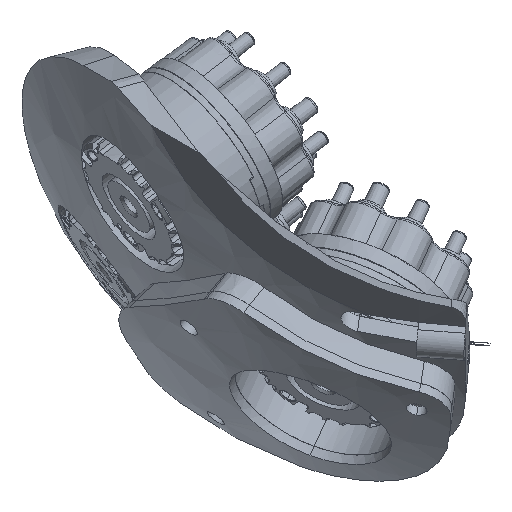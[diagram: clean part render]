
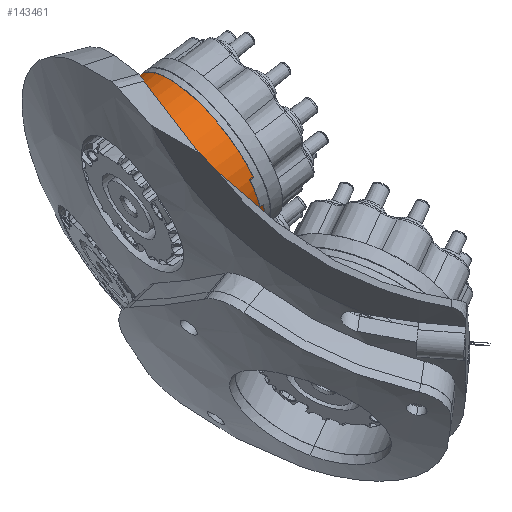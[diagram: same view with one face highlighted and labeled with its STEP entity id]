
A CAD part, front view. The second image highlights one B-rep face of the part: STEP entity #143461.
In plain terms, the highlighted cylindrical face has radius 18.5 mm (diameter 37 mm), a partial arc.
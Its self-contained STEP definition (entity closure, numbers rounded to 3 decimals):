
#355 = AXIS2_PLACEMENT_3D ( 'NONE', #65048, #34420, #78872 ) ;
#1056 = CYLINDRICAL_SURFACE ( 'NONE', #122494, 18.5 ) ;
#1066 = ORIENTED_EDGE ( 'NONE', *, *, #36308, .T. ) ;
#11447 = CARTESIAN_POINT ( 'NONE',  ( -1.54, 8.2, 18.436 ) ) ;
#12707 = FACE_OUTER_BOUND ( 'NONE', #63963, .T. ) ;
#13422 = DIRECTION ( 'NONE',  ( 0., -1., 0. ) ) ;
#15385 = VERTEX_POINT ( 'NONE', #107745 ) ;
#18158 = CARTESIAN_POINT ( 'NONE',  ( 0., 0.25, -18.5 ) ) ;
#19511 = AXIS2_PLACEMENT_3D ( 'NONE', #101348, #57669, #83828 ) ;
#19652 = LINE ( 'NONE', #29869, #32693 ) ;
#26034 = CARTESIAN_POINT ( 'NONE',  ( -9.332, 7.2, 15.974 ) ) ;
#27424 = AXIS2_PLACEMENT_3D ( 'NONE', #110310, #45432, #103465 ) ;
#29869 = CARTESIAN_POINT ( 'NONE',  ( 0., 8.2, -18.5 ) ) ;
#32693 = VECTOR ( 'NONE', #107778, 1000. ) ;
#34420 = DIRECTION ( 'NONE',  ( 0., 1., 0. ) ) ;
#34426 = CIRCLE ( 'NONE', #57637, 18.5 ) ;
#36308 = EDGE_CURVE ( 'NONE', #143356, #74878, #19652, .T. ) ;
#37424 = EDGE_CURVE ( 'NONE', #126676, #83692, #90251, .T. ) ;
#38208 = LINE ( 'NONE', #116922, #40116 ) ;
#38496 = ORIENTED_EDGE ( 'NONE', *, *, #37424, .F. ) ;
#40049 = EDGE_CURVE ( 'NONE', #81407, #126676, #38208, .T. ) ;
#40116 = VECTOR ( 'NONE', #93588, 1000. ) ;
#45209 = CARTESIAN_POINT ( 'NONE',  ( -1.54, 8.1, 18.436 ) ) ;
#45432 = DIRECTION ( 'NONE',  ( 0., 1., 0. ) ) ;
#46586 = VECTOR ( 'NONE', #89338, 1000. ) ;
#47294 = ORIENTED_EDGE ( 'NONE', *, *, #133026, .T. ) ;
#50346 = DIRECTION ( 'NONE',  ( 0., 1., 0. ) ) ;
#56431 = DIRECTION ( 'NONE',  ( 0., 0., -1. ) ) ;
#57637 = AXIS2_PLACEMENT_3D ( 'NONE', #139291, #50346, #72273 ) ;
#57669 = DIRECTION ( 'NONE',  ( 0., 1., 0. ) ) ;
#58358 = CARTESIAN_POINT ( 'NONE',  ( -9.332, 8.1, 15.974 ) ) ;
#59119 = DIRECTION ( 'NONE',  ( 0., -1., 0. ) ) ;
#59846 = LINE ( 'NONE', #93339, #81336 ) ;
#63963 = EDGE_LOOP ( 'NONE', ( #115208, #1066, #47294, #94252, #109670, #96023, #38496, #94813 ) ) ;
#65048 = CARTESIAN_POINT ( 'NONE',  ( 0., 0.25, 0. ) ) ;
#67711 = EDGE_CURVE ( 'NONE', #15385, #80215, #70351, .T. ) ;
#70351 = LINE ( 'NONE', #11447, #46586 ) ;
#72273 = DIRECTION ( 'NONE',  ( 0., 0., 1. ) ) ;
#74878 = VERTEX_POINT ( 'NONE', #18158 ) ;
#78872 = DIRECTION ( 'NONE',  ( 0., 0., 1. ) ) ;
#80215 = VERTEX_POINT ( 'NONE', #45209 ) ;
#81336 = VECTOR ( 'NONE', #59119, 1000. ) ;
#81407 = VERTEX_POINT ( 'NONE', #120270 ) ;
#83692 = VERTEX_POINT ( 'NONE', #26034 ) ;
#83828 = DIRECTION ( 'NONE',  ( 0., 0., 1. ) ) ;
#87771 = CARTESIAN_POINT ( 'NONE',  ( 0., 8.1, -18.5 ) ) ;
#89338 = DIRECTION ( 'NONE',  ( 0., 1., 0. ) ) ;
#90251 = CIRCLE ( 'NONE', #27424, 18.5 ) ;
#91338 = CARTESIAN_POINT ( 'NONE',  ( 0., 8.2, 0. ) ) ;
#93339 = CARTESIAN_POINT ( 'NONE',  ( -9.332, 8.1, 15.974 ) ) ;
#93588 = DIRECTION ( 'NONE',  ( 0., -1., 0. ) ) ;
#94252 = ORIENTED_EDGE ( 'NONE', *, *, #67711, .T. ) ;
#94813 = ORIENTED_EDGE ( 'NONE', *, *, #40049, .F. ) ;
#95713 = VERTEX_POINT ( 'NONE', #58358 ) ;
#96023 = ORIENTED_EDGE ( 'NONE', *, *, #111831, .T. ) ;
#98045 = CIRCLE ( 'NONE', #355, 18.5 ) ;
#98480 = CIRCLE ( 'NONE', #19511, 18.5 ) ;
#100593 = EDGE_CURVE ( 'NONE', #143356, #81407, #98480, .T. ) ;
#101348 = CARTESIAN_POINT ( 'NONE',  ( 0., 8.1, 0. ) ) ;
#103465 = DIRECTION ( 'NONE',  ( 0., 0., 1. ) ) ;
#107745 = CARTESIAN_POINT ( 'NONE',  ( -1.54, 0.25, 18.436 ) ) ;
#107778 = DIRECTION ( 'NONE',  ( 0., -1., 0. ) ) ;
#109670 = ORIENTED_EDGE ( 'NONE', *, *, #119208, .F. ) ;
#110310 = CARTESIAN_POINT ( 'NONE',  ( 0., 7.2, 0. ) ) ;
#111831 = EDGE_CURVE ( 'NONE', #95713, #83692, #59846, .T. ) ;
#115208 = ORIENTED_EDGE ( 'NONE', *, *, #100593, .F. ) ;
#116922 = CARTESIAN_POINT ( 'NONE',  ( -14.717, 8.1, 11.209 ) ) ;
#119208 = EDGE_CURVE ( 'NONE', #95713, #80215, #34426, .T. ) ;
#120270 = CARTESIAN_POINT ( 'NONE',  ( -14.717, 8.1, 11.209 ) ) ;
#122494 = AXIS2_PLACEMENT_3D ( 'NONE', #91338, #13422, #56431 ) ;
#126676 = VERTEX_POINT ( 'NONE', #136894 ) ;
#133026 = EDGE_CURVE ( 'NONE', #74878, #15385, #98045, .T. ) ;
#136894 = CARTESIAN_POINT ( 'NONE',  ( -14.717, 7.2, 11.209 ) ) ;
#139291 = CARTESIAN_POINT ( 'NONE',  ( 0., 8.1, 0. ) ) ;
#143356 = VERTEX_POINT ( 'NONE', #87771 ) ;
#143461 = ADVANCED_FACE ( 'NONE', ( #12707 ), #1056, .T. ) ;
